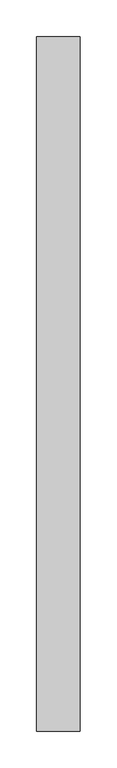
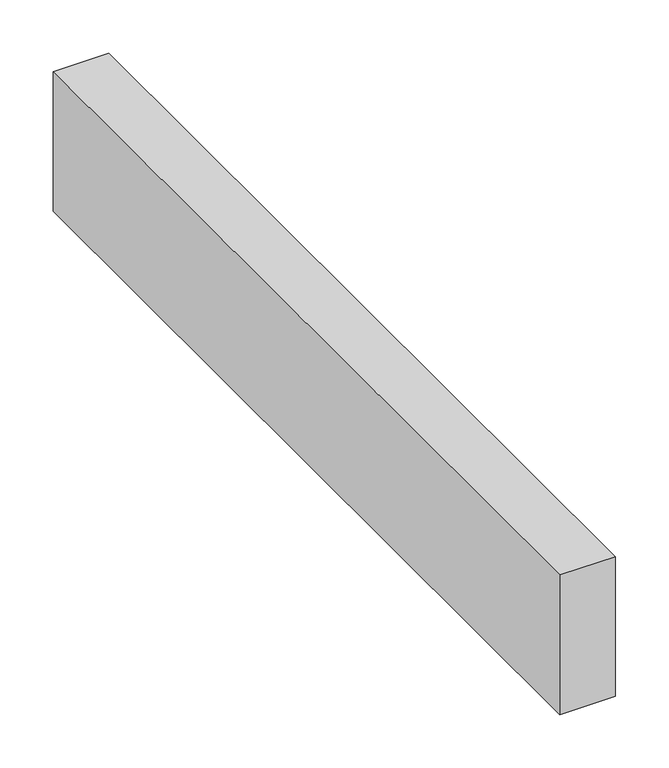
"""IFC4 building model written with IfcOpenShell, lengths in millimetres: proxy geometry, Modelos genéricos 10 : Modelos genéricos 9."""

from ifc_helpers import new_model, si_unit, frame, origin, place, context, project, spatial, polyline, outline, extrude, source, transform, mapped, element, save


def generic_models_344d9f8f(model_context):
    return source(origin(), model_context, "Body", "SweptSolid", [
        extrude(outline(polyline([(44263.4472467, 1468.6238165), (44263.4472467, 2418.6238165), (44323.4472467, 2418.6238165), (44323.4472467, 1468.6238165), (44263.4472467, 1468.6238165)])), frame((0.0, 0.0, 3000.0), z_axis=(0.0, 0.0, 1.0), x_axis=(1.0, 0.0, 0.0)), (0.0, 0.0, 1.0), 160.0),
    ])


if __name__ == "__main__":
    model = new_model("IFC4")
    model_context = context("Model", 3, world=origin())
    ifc_project = project(units=[si_unit("LENGTHUNIT", "METRE", prefix="MILLI")], contexts=[model_context])
    site = spatial("IfcSite", under=ifc_project)
    building = spatial("IfcBuilding", under=site)
    placement = place(None, origin())
    generic_models_shape = generic_models_344d9f8f(model_context)
    element("IfcBuildingElementProxy", 1, Name="Modelos genéricos 10 : Modelos genéricos 9", ObjectType="Modelos genéricos 10 : Modelos genéricos 9", at=placement, inside=building, context=model_context, shape_type="MappedRepresentation", body=[
        mapped(generic_models_shape, transform((0.0, 0.0, 0.0), x_axis=(1.0, 0.0, 0.0), y_axis=(0.0, 1.0, 0.0), z_axis=(0.0, 0.0, 1.0))),
    ])
    save(model, "model.ifc")
